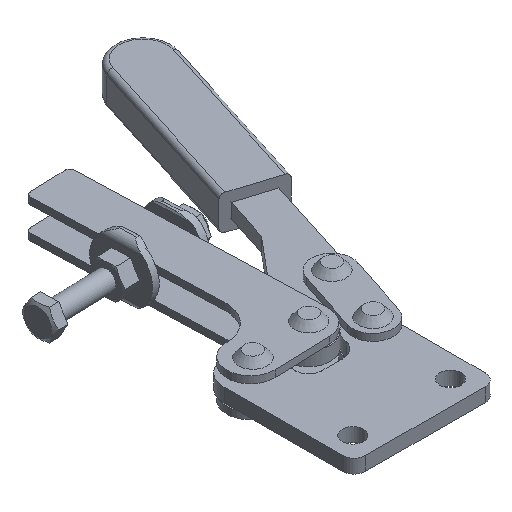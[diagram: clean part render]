
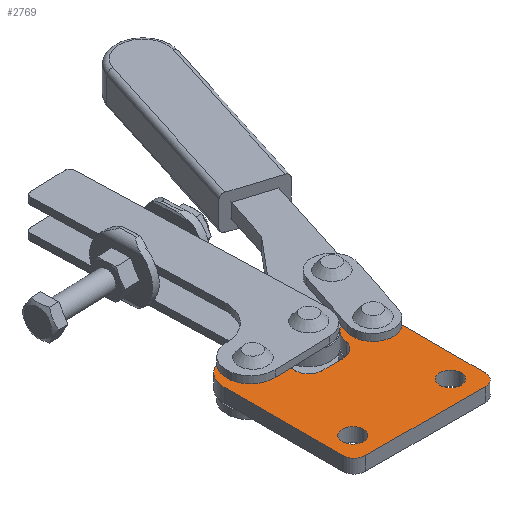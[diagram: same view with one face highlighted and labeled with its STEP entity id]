
A CAD part, isometric view. The second image highlights one B-rep face of the part: STEP entity #2769.
In plain terms, the highlighted planar face has unit normal (0, 0, 1).
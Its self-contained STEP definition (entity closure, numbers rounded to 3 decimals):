
#309=FACE_BOUND('',#524,.T.);
#310=FACE_BOUND('',#525,.T.);
#311=FACE_BOUND('',#526,.T.);
#312=FACE_BOUND('',#527,.T.);
#360=FACE_OUTER_BOUND('',#523,.T.);
#523=EDGE_LOOP('',(#1973,#1974,#1975,#1976,#1977,#1978,#1979,#1980,#1981,
#1982,#1983));
#524=EDGE_LOOP('',(#1984));
#525=EDGE_LOOP('',(#1985));
#526=EDGE_LOOP('',(#1986));
#527=EDGE_LOOP('',(#1987));
#709=LINE('',#4436,#909);
#717=LINE('',#4465,#917);
#720=LINE('',#4473,#920);
#724=LINE('',#4484,#924);
#725=LINE('',#4486,#925);
#909=VECTOR('',#3536,10.);
#917=VECTOR('',#3570,10.);
#920=VECTOR('',#3579,10.);
#924=VECTOR('',#3593,10.);
#925=VECTOR('',#3596,10.);
#1111=CIRCLE('',#3161,5.);
#1112=CIRCLE('',#3164,5.);
#1113=CIRCLE('',#3166,4.5);
#1114=CIRCLE('',#3168,4.5);
#1115=CIRCLE('',#3170,4.);
#1116=CIRCLE('',#3172,4.);
#1117=CIRCLE('',#3174,10.5);
#1118=CIRCLE('',#3177,5.5);
#1119=CIRCLE('',#3180,7.);
#1120=CIRCLE('',#3182,9.);
#1269=VERTEX_POINT('',#4428);
#1270=VERTEX_POINT('',#4429);
#1271=VERTEX_POINT('',#4434);
#1272=VERTEX_POINT('',#4438);
#1273=VERTEX_POINT('',#4442);
#1274=VERTEX_POINT('',#4446);
#1275=VERTEX_POINT('',#4450);
#1276=VERTEX_POINT('',#4454);
#1277=VERTEX_POINT('',#4458);
#1278=VERTEX_POINT('',#4460);
#1279=VERTEX_POINT('',#4464);
#1280=VERTEX_POINT('',#4468);
#1281=VERTEX_POINT('',#4472);
#1282=VERTEX_POINT('',#4476);
#1283=VERTEX_POINT('',#4480);
#1526=EDGE_CURVE('',#1269,#1270,#1111,.T.);
#1530=EDGE_CURVE('',#1269,#1271,#709,.T.);
#1531=EDGE_CURVE('',#1272,#1271,#1112,.T.);
#1533=EDGE_CURVE('',#1273,#1273,#1113,.T.);
#1535=EDGE_CURVE('',#1274,#1274,#1114,.T.);
#1538=EDGE_CURVE('',#1275,#1275,#1115,.T.);
#1540=EDGE_CURVE('',#1276,#1276,#1116,.T.);
#1542=EDGE_CURVE('',#1278,#1277,#1117,.T.);
#1544=EDGE_CURVE('',#1279,#1278,#717,.T.);
#1546=EDGE_CURVE('',#1280,#1279,#1118,.T.);
#1548=EDGE_CURVE('',#1281,#1280,#720,.T.);
#1550=EDGE_CURVE('',#1282,#1281,#1119,.T.);
#1552=EDGE_CURVE('',#1283,#1282,#1120,.T.);
#1554=EDGE_CURVE('',#1272,#1283,#724,.T.);
#1555=EDGE_CURVE('',#1277,#1270,#725,.T.);
#1973=ORIENTED_EDGE('',*,*,#1526,.F.);
#1974=ORIENTED_EDGE('',*,*,#1530,.T.);
#1975=ORIENTED_EDGE('',*,*,#1531,.F.);
#1976=ORIENTED_EDGE('',*,*,#1554,.T.);
#1977=ORIENTED_EDGE('',*,*,#1552,.T.);
#1978=ORIENTED_EDGE('',*,*,#1550,.T.);
#1979=ORIENTED_EDGE('',*,*,#1548,.T.);
#1980=ORIENTED_EDGE('',*,*,#1546,.T.);
#1981=ORIENTED_EDGE('',*,*,#1544,.T.);
#1982=ORIENTED_EDGE('',*,*,#1542,.T.);
#1983=ORIENTED_EDGE('',*,*,#1555,.T.);
#1984=ORIENTED_EDGE('',*,*,#1533,.T.);
#1985=ORIENTED_EDGE('',*,*,#1535,.T.);
#1986=ORIENTED_EDGE('',*,*,#1538,.T.);
#1987=ORIENTED_EDGE('',*,*,#1540,.T.);
#2678=PLANE('',#3185);
#2769=ADVANCED_FACE('',(#360,#309,#310,#311,#312),#2678,.T.);
#3161=AXIS2_PLACEMENT_3D('',#4430,#3529,#3530);
#3164=AXIS2_PLACEMENT_3D('',#4439,#3539,#3540);
#3166=AXIS2_PLACEMENT_3D('',#4443,#3544,#3545);
#3168=AXIS2_PLACEMENT_3D('',#4447,#3549,#3550);
#3170=AXIS2_PLACEMENT_3D('',#4452,#3555,#3556);
#3172=AXIS2_PLACEMENT_3D('',#4456,#3560,#3561);
#3174=AXIS2_PLACEMENT_3D('',#4461,#3565,#3566);
#3177=AXIS2_PLACEMENT_3D('',#4469,#3574,#3575);
#3180=AXIS2_PLACEMENT_3D('',#4477,#3583,#3584);
#3182=AXIS2_PLACEMENT_3D('',#4481,#3588,#3589);
#3185=AXIS2_PLACEMENT_3D('',#4487,#3597,#3598);
#3529=DIRECTION('center_axis',(0.,0.,-1.));
#3530=DIRECTION('ref_axis',(-0.707,-0.707,0.));
#3536=DIRECTION('',(1.,0.,0.));
#3539=DIRECTION('center_axis',(0.,0.,-1.));
#3540=DIRECTION('ref_axis',(0.707,-0.707,0.));
#3544=DIRECTION('center_axis',(0.,0.,-1.));
#3545=DIRECTION('ref_axis',(-1.,0.,0.));
#3549=DIRECTION('center_axis',(0.,0.,-1.));
#3550=DIRECTION('ref_axis',(-1.,0.,0.));
#3555=DIRECTION('center_axis',(0.,0.,-1.));
#3556=DIRECTION('ref_axis',(-1.,0.,0.));
#3560=DIRECTION('center_axis',(0.,0.,-1.));
#3561=DIRECTION('ref_axis',(-1.,0.,0.));
#3565=DIRECTION('center_axis',(0.,0.,1.));
#3566=DIRECTION('ref_axis',(-1.,0.,0.));
#3570=DIRECTION('',(0.,1.,0.));
#3574=DIRECTION('center_axis',(0.,0.,-1.));
#3575=DIRECTION('ref_axis',(-1.,0.,0.));
#3579=DIRECTION('',(-1.,0.,0.));
#3583=DIRECTION('center_axis',(0.,0.,-1.));
#3584=DIRECTION('ref_axis',(0.,-1.,0.));
#3588=DIRECTION('center_axis',(0.,0.,1.));
#3589=DIRECTION('ref_axis',(-0.997,0.077,0.));
#3593=DIRECTION('',(0.,1.,0.));
#3596=DIRECTION('',(0.,-1.,0.));
#3597=DIRECTION('center_axis',(0.,0.,1.));
#3598=DIRECTION('ref_axis',(1.,0.,0.));
#4428=CARTESIAN_POINT('',(5.,0.,2.9));
#4429=CARTESIAN_POINT('',(0.,5.,2.9));
#4430=CARTESIAN_POINT('Origin',(5.,5.,2.9));
#4434=CARTESIAN_POINT('',(55.,0.,2.9));
#4436=CARTESIAN_POINT('',(60.,0.,2.9));
#4438=CARTESIAN_POINT('',(60.,5.,2.9));
#4439=CARTESIAN_POINT('Origin',(55.,5.,2.9));
#4442=CARTESIAN_POINT('',(55.,10.,2.9));
#4443=CARTESIAN_POINT('Origin',(50.5,10.,2.9));
#4446=CARTESIAN_POINT('',(14.,10.,2.9));
#4447=CARTESIAN_POINT('Origin',(9.5,10.,2.9));
#4450=CARTESIAN_POINT('',(55.686,43.7,2.9));
#4452=CARTESIAN_POINT('Origin',(51.686,43.7,2.9));
#4454=CARTESIAN_POINT('',(15.7,54.1,2.9));
#4456=CARTESIAN_POINT('Origin',(11.7,54.1,2.9));
#4458=CARTESIAN_POINT('',(0.,54.5,2.9));
#4460=CARTESIAN_POINT('',(21.,54.5,2.9));
#4461=CARTESIAN_POINT('Origin',(10.5,54.5,2.9));
#4464=CARTESIAN_POINT('',(21.,45.5,2.9));
#4465=CARTESIAN_POINT('',(21.,54.5,2.9));
#4468=CARTESIAN_POINT('',(26.5,40.,2.9));
#4469=CARTESIAN_POINT('Origin',(26.5,45.5,2.9));
#4472=CARTESIAN_POINT('',(35.3,40.,2.9));
#4473=CARTESIAN_POINT('',(26.5,40.,2.9));
#4476=CARTESIAN_POINT('',(42.1,45.34,2.9));
#4477=CARTESIAN_POINT('Origin',(35.3,47.,2.9));
#4480=CARTESIAN_POINT('',(60.,43.5,2.9));
#4481=CARTESIAN_POINT('Origin',(51.026,44.189,2.9));
#4484=CARTESIAN_POINT('',(60.,43.5,2.9));
#4486=CARTESIAN_POINT('',(0.,0.,2.9));
#4487=CARTESIAN_POINT('Origin',(28.234,27.055,2.9));
